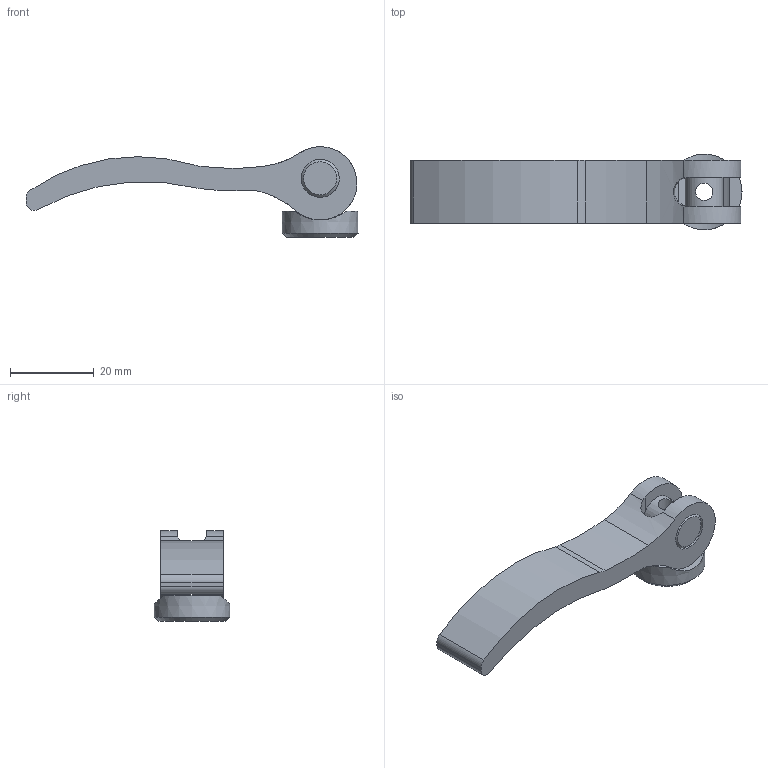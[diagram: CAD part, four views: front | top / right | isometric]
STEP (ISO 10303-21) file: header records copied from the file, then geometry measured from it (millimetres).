
FILE_DESCRIPTION(('STEP AP203'), '1');
FILE_NAME('À00360.11790500 _ Ýêñöåíòðèê 79 ìì', '', ('UNSPECIFIED'), ('UNSPECIFIED'), 'C3D Converter', 'C3D Toolkit', '');
FILE_SCHEMA(('CONFIG_CONTROL_DESIGN'));
Length unit declared in the file: millimetre
Products named in the file (4): А00360.79.03; А00360.79.02; А00360.79.01
Assembly tree (3 placements, depth 2):
  (unnamed)
    А00360.79.03
    А00360.79.02
    А00360.79.01
Bounding box: 79.33 x 18.07 x 21.62 mm (x, y, z)
Volume: 9030.4 mm3; surface area: 5519.3 mm2
Topology: 3 solids, 3 shells, 34 faces, 87 edges, 57 vertices
Faces by surface type: cylinder 20, plane 10, cone 4
Full cylindrical faces by diameter (mm): 4.134 x1, 6.6 x1, 9.1 x3
Entity records: 1849 total; most frequent: CARTESIAN_POINT 828, DIRECTION 183, ORIENTED_EDGE 156, AXIS2_PLACEMENT_3D 80, EDGE_CURVE 78, VERTEX_POINT 57, EDGE_LOOP 49, CIRCLE 42
